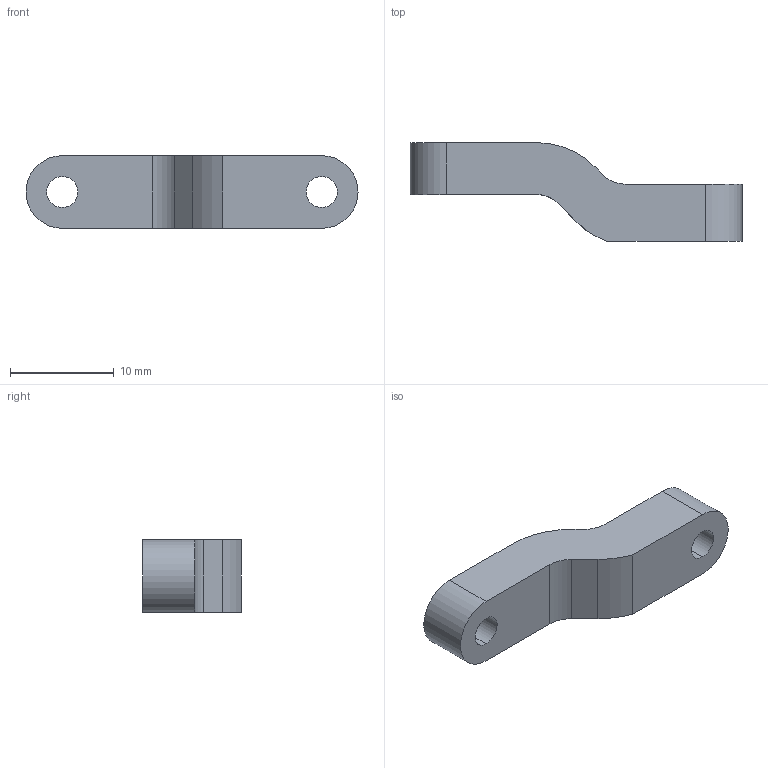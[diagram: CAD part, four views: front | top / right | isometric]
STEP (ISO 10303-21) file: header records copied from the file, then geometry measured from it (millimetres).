
FILE_DESCRIPTION (( 'STEP AP214' ), '1' );
FILE_NAME ('ﾌ44_ﾏﾌ_ﾒ聰 24.STEP', '2019-03-21T14:23:03', ( '' ), ( '' ), 'SwSTEP 2.0', 'SolidWorks 2018', '' );
FILE_SCHEMA (( 'AUTOMOTIVE_DESIGN' ));
Length unit declared in the file: millimetre
Products named in the file (1): ﾌ44_ﾏﾌ_ﾒ聰 24
Bounding box: 32 x 9.5 x 7 mm (x, y, z)
Volume: 1088.1 mm3; surface area: 906.5 mm2
Topology: 1 solids, 1 shells, 18 faces, 48 edges, 32 vertices
Faces by surface type: cylinder 10, plane 8
Entity records: 614 total; most frequent: DIRECTION 106, CARTESIAN_POINT 99, ORIENTED_EDGE 96, EDGE_CURVE 48, AXIS2_PLACEMENT_3D 39, VERTEX_POINT 32, VECTOR 28, LINE 28
